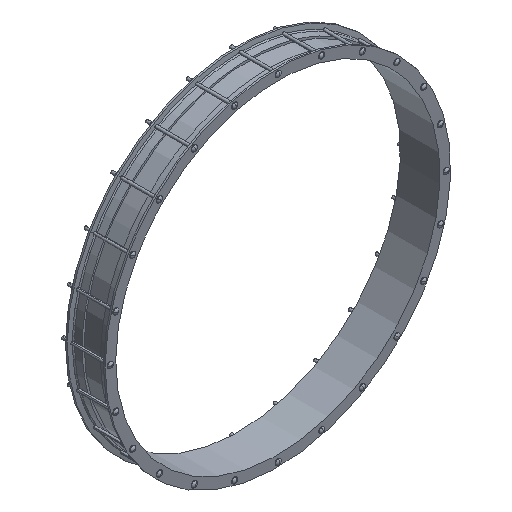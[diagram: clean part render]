
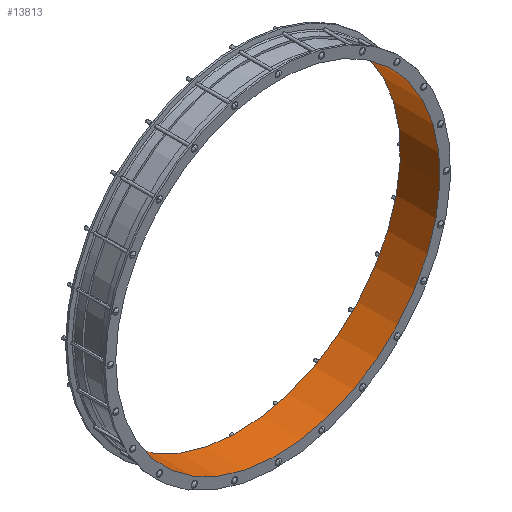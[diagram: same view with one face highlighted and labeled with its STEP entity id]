
A CAD part, isometric view. The second image highlights one B-rep face of the part: STEP entity #13813.
In plain terms, the highlighted cylindrical face has radius 916.75 mm (diameter 1833.5 mm), a partial arc.
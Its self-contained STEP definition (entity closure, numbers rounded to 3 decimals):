
#339=CARTESIAN_POINT('',(0.,112.,0.));
#340=DIRECTION('',(0.,1.,0.));
#341=DIRECTION('',(-0.707,0.,0.707));
#342=AXIS2_PLACEMENT_3D('',#339,#340,#341);
#589=DIRECTION('',(0.,1.,0.));
#590=VECTOR('',#589,224.);
#591=CARTESIAN_POINT('',(-793.929,-112.,458.375));
#592=LINE('',#591,#590);
#593=DIRECTION('',(0.,1.,0.));
#594=VECTOR('',#593,224.);
#595=CARTESIAN_POINT('',(-648.24,-112.,648.24));
#596=LINE('',#595,#594);
#597=CARTESIAN_POINT('',(0.,-112.,0.));
#598=DIRECTION('',(0.,1.,0.));
#599=DIRECTION('',(-0.707,0.,0.707));
#600=AXIS2_PLACEMENT_3D('',#597,#598,#599);
#13231=CARTESIAN_POINT('',(-793.929,-112.,458.375));
#13232=CARTESIAN_POINT('',(-793.929,112.,458.375));
#13233=VERTEX_POINT('',#13231);
#13234=VERTEX_POINT('',#13232);
#13273=CARTESIAN_POINT('',(-648.24,-112.,648.24));
#13274=CARTESIAN_POINT('',(-648.24,112.,648.24));
#13275=VERTEX_POINT('',#13273);
#13276=VERTEX_POINT('',#13274);
#13799=CARTESIAN_POINT('',(0.,-123.2,0.));
#13800=DIRECTION('',(0.,1.,0.));
#13801=DIRECTION('',(0.866,0.,0.5));
#13802=AXIS2_PLACEMENT_3D('',#13799,#13800,#13801);
#13803=CYLINDRICAL_SURFACE('',#13802,916.75);
#13805=ORIENTED_EDGE('',*,*,#13804,.T.);
#13806=ORIENTED_EDGE('',*,*,#13769,.F.);
#13808=ORIENTED_EDGE('',*,*,#13807,.F.);
#13810=ORIENTED_EDGE('',*,*,#13809,.T.);
#13811=EDGE_LOOP('',(#13805,#13806,#13808,#13810));
#13812=FACE_OUTER_BOUND('',#13811,.F.);
#13813=ADVANCED_FACE('',(#13812),#13803,.F.);
#343=CIRCLE('',#342,916.75);
#601=CIRCLE('',#600,916.75);
#13769=EDGE_CURVE('',#13276,#13234,#343,.T.);
#13804=EDGE_CURVE('',#13233,#13234,#592,.T.);
#13807=EDGE_CURVE('',#13275,#13276,#596,.T.);
#13809=EDGE_CURVE('',#13275,#13233,#601,.T.);
